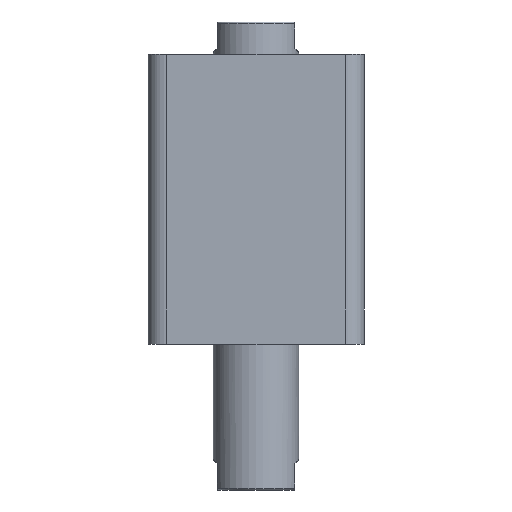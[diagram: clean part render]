
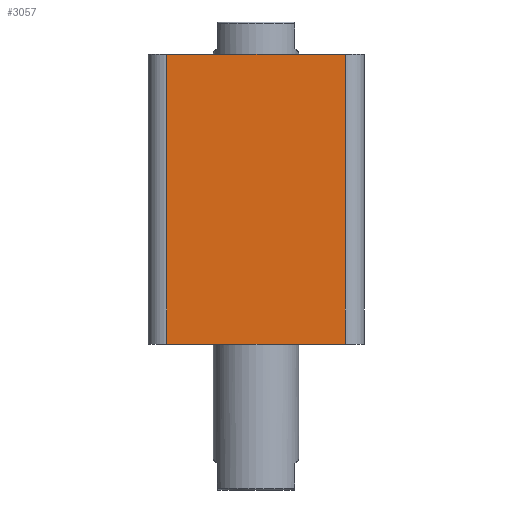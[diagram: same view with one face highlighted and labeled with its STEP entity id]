
A CAD part, front view. The second image highlights one B-rep face of the part: STEP entity #3057.
In plain terms, the highlighted planar face has unit normal (0, -1, 0).
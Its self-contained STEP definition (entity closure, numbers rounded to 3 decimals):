
#155 = ORIENTED_EDGE ( 'NONE', *, *, #619, .T. ) ;
#156 = ORIENTED_EDGE ( 'NONE', *, *, #618, .F. ) ;
#157 = ORIENTED_EDGE ( 'NONE', *, *, #617, .T. ) ;
#158 = ORIENTED_EDGE ( 'NONE', *, *, #616, .T. ) ;
#616 = EDGE_CURVE ( 'NONE', #2670, #2649, #957, .T. ) ;
#617 = EDGE_CURVE ( 'NONE', #2649, #2642, #951, .T. ) ;
#618 = EDGE_CURVE ( 'NONE', #2645, #2642, #961, .T. ) ;
#619 = EDGE_CURVE ( 'NONE', #2645, #2670, #963, .T. ) ;
#951 = LINE ( 'NONE', #2067, #962 ) ;
#957 = LINE ( 'NONE', #2077, #960 ) ;
#960 = VECTOR ( 'NONE', #2078, 1000. ) ;
#961 = LINE ( 'NONE', #2080, #964 ) ;
#962 = VECTOR ( 'NONE', #2079, 1000. ) ;
#963 = LINE ( 'NONE', #2082, #966 ) ;
#964 = VECTOR ( 'NONE', #2081, 1000. ) ;
#966 = VECTOR ( 'NONE', #2083, 1000. ) ;
#1118 = FACE_OUTER_BOUND ( 'NONE', #2754, .T. ) ;
#1610 = CARTESIAN_POINT ( 'NONE',  ( 47., -57., 153. ) ) ;
#1612 = CARTESIAN_POINT ( 'NONE',  ( -47., -57., 153. ) ) ;
#1614 = CARTESIAN_POINT ( 'NONE',  ( 47., -57., 0. ) ) ;
#1625 = CARTESIAN_POINT ( 'NONE',  ( -47., -57., 0. ) ) ;
#1656 = CARTESIAN_POINT ( 'NONE',  ( -57., -57., 153. ) ) ;
#1662 = PLANE ( 'NONE',  #2615 ) ;
#1663 = DIRECTION ( 'NONE',  ( 0., 1., 0. ) ) ;
#1664 = DIRECTION ( 'NONE',  ( 0., 0., 1. ) ) ;
#2067 = CARTESIAN_POINT ( 'NONE',  ( 47., -57., 153. ) ) ;
#2077 = CARTESIAN_POINT ( 'NONE',  ( -57., -57., 0. ) ) ;
#2078 = DIRECTION ( 'NONE',  ( 1., 0., 0. ) ) ;
#2079 = DIRECTION ( 'NONE',  ( 0., 0., 1. ) ) ;
#2080 = CARTESIAN_POINT ( 'NONE',  ( -57., -57., 153. ) ) ;
#2081 = DIRECTION ( 'NONE',  ( 1., 0., 0. ) ) ;
#2082 = CARTESIAN_POINT ( 'NONE',  ( -47., -57., 153. ) ) ;
#2083 = DIRECTION ( 'NONE',  ( 0., 0., -1. ) ) ;
#2615 = AXIS2_PLACEMENT_3D ( 'NONE', #1656, #1663, #1664 ) ;
#2642 = VERTEX_POINT ( 'NONE', #1610 ) ;
#2645 = VERTEX_POINT ( 'NONE', #1612 ) ;
#2649 = VERTEX_POINT ( 'NONE', #1614 ) ;
#2670 = VERTEX_POINT ( 'NONE', #1625 ) ;
#2754 = EDGE_LOOP ( 'NONE', ( #158, #157, #156, #155 ) ) ;
#3057 = ADVANCED_FACE ( 'NONE', ( #1118 ), #1662, .F. ) ;
